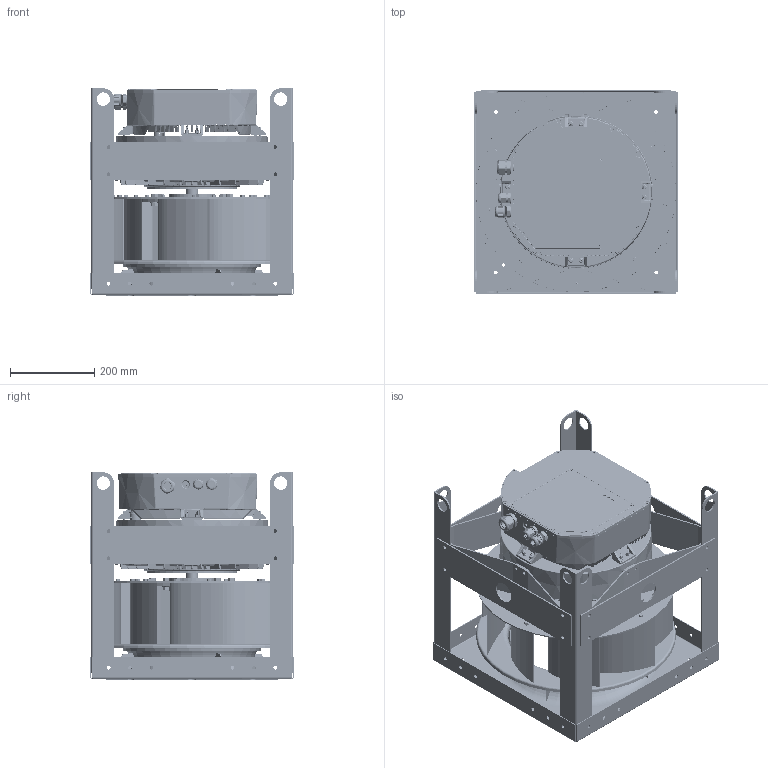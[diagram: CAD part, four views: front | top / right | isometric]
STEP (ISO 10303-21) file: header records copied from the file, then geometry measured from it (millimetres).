
FILE_DESCRIPTION (( 'STEP AP214' ), '1' );
FILE_NAME ('655769.STEP', '2026-06-10T14:22:38', ( '' ), ( '' ), 'SwSTEP 2.0', 'SolidWorks 2023', '' );
FILE_SCHEMA (( 'AUTOMOTIVE_DESIGN' ));
Length unit declared in the file: inch
Products named in the file (19): 655769; SXP18 FP_651356; 651595_651595; SXP18 BAFFLE_682897; 941044_941044; SXP18 BLADE_767250; 941768_941768; 941153_941153; SXP18 WHEEL WELDMENT_687053; SXP18-9 BP_682875; SXP18 INLET_651354; SXP18 INLET ASSY_687066; 941156_941156; SXP18 WHEEL ASSY_655591; 941770_BUSHING  TB2012 X 1.125; 925250CS_925250CS; 651598_651598; 651599_651599; SXPI STRAP_651580
Assembly tree (83 placements, depth 4):
  655769
    651595_651595
    SXP18 WHEEL ASSY_655591
      SXP18 WHEEL WELDMENT_687053
        SXP18 FP_651356
        SXP18 BLADE_767250  x9
        SXP18-9 BP_682875
        941044_941044  x36
      941153_941153  x6
      941156_941156  x6
      941768_941768
    SXP18 INLET ASSY_687066
      SXP18 INLET_651354
      SXP18 BAFFLE_682897  x4
    925250CS_925250CS
    941770_BUSHING  TB2012 X 1.125
    651599_651599  x4
    651598_651598  x4
    SXPI STRAP_651580  x4
Bounding box: 485.39 x 485.39 x 491.8 mm (x, y, z)
Volume: 4727667.6 mm3; surface area: 4290605.5 mm2
Topology: 79 solids, 206 shells, 7024 faces, 20677 edges, 13776 vertices
Faces by surface type: plane 2611, cylinder 1838, bspline 1455, cone 750, torus 358, sphere 12
Full cylindrical faces by diameter (mm): 2.9 x2, 3.962 x8, 4.762 x9, 4.763 x9, 5.105 x16, 5.5 x6, 6.35 x36, 7.137 x16, 7.544 x2, 7.937 x2, 7.938 x2, 8.5 x1, 8.738 x84, 8.8 x12, 9.525 x12, 10.1 x1, 10.2 x1, 11.8 x8, 12.5 x1, 12.6 x1, 13 x7, 13.208 x36, 14 x1, 14.097 x6, 17.462 x4, 19.05 x6, 20.32 x8, 20.637 x6, 21.847 x1, 23.5 x1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
Entity records: 261817 total; most frequent: CARTESIAN_POINT 169542, ORIENTED_EDGE 18691, DIRECTION 16625, EDGE_CURVE 11416, VERTEX_POINT 8013, AXIS2_PLACEMENT_3D 6568, EDGE_LOOP 4678, FACE_OUTER_BOUND 4001
